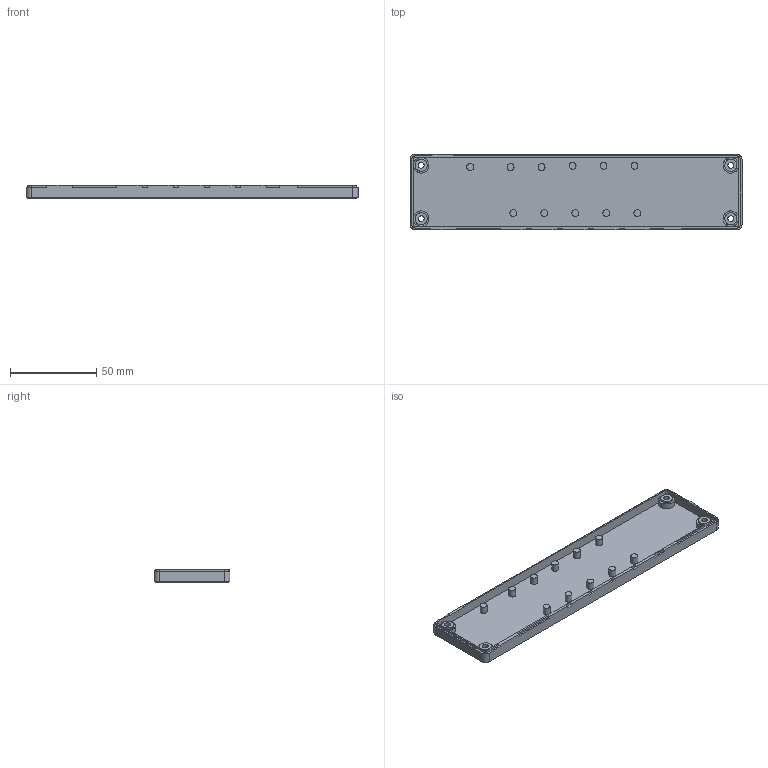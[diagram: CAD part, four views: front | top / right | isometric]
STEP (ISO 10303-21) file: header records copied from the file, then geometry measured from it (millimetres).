
FILE_DESCRIPTION(('Open CASCADE Model'),'2;1');
FILE_NAME('Open CASCADE Shape Model','2026-11-14T14:56:58',('Author'),( 'Open CASCADE'),'Open CASCADE STEP processor 7.9','Open CASCADE 7.9' ,'Unknown');
FILE_SCHEMA(('AUTOMOTIVE_DESIGN { 1 0 10303 214 1 1 1 1 }'));
Length unit declared in the file: millimetre
Products named in the file (1): Open CASCADE STEP translator 7.9 2
Bounding box: 192.8 x 44 x 7.88 mm (x, y, z)
Volume: 22311.9 mm3; surface area: 24669.8 mm2
Topology: 1 solids, 1 shells, 136 faces, 311 edges, 204 vertices
Faces by surface type: bspline 136
Entity records: 8108 total; most frequent: CARTESIAN_POINT 4085, B_SPLINE_CURVE_WITH_KNOTS 749, ORIENTED_EDGE 622, PCURVE 622, DEFINITIONAL_REPRESENTATION 622, EDGE_CURVE 311, SURFACE_CURVE 280, VERTEX_POINT 204
